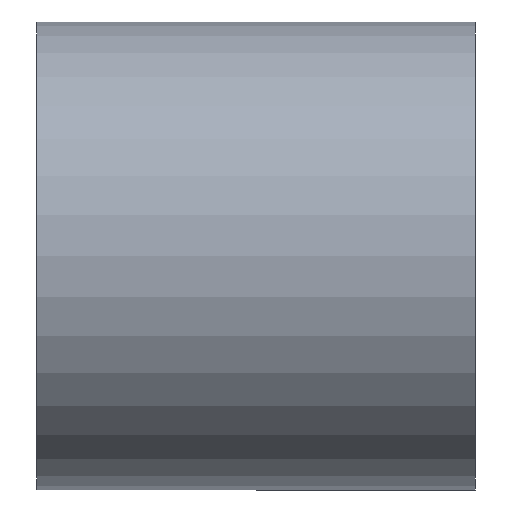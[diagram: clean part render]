
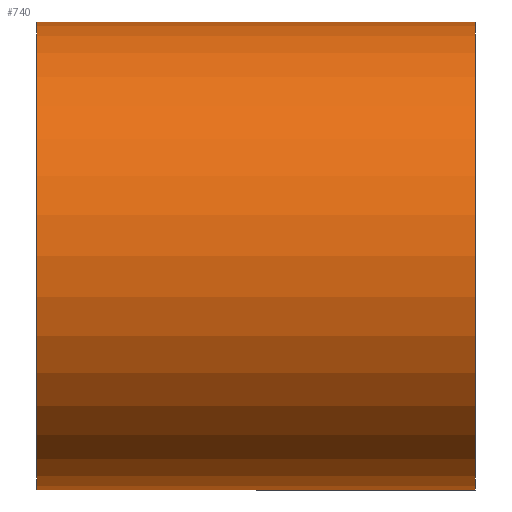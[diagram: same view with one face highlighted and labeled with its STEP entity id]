
A CAD part, front view. The second image highlights one B-rep face of the part: STEP entity #740.
In plain terms, the highlighted cylindrical face has radius 8 mm (diameter 16 mm), a partial arc.
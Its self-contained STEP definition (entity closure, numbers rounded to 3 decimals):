
#20 = VERTEX_POINT ( 'NONE', #384 ) ;
#53 = DIRECTION ( 'NONE',  ( -1., 0., 0. ) ) ;
#103 = VERTEX_POINT ( 'NONE', #879 ) ;
#150 = VECTOR ( 'NONE', #598, 1000. ) ;
#164 = EDGE_CURVE ( 'NONE', #20, #451, #617, .T. ) ;
#223 = EDGE_CURVE ( 'NONE', #103, #451, #361, .T. ) ;
#231 = AXIS2_PLACEMENT_3D ( 'NONE', #481, #707, #363 ) ;
#241 = CARTESIAN_POINT ( 'NONE',  ( 7.5, 0., -8. ) ) ;
#283 = CARTESIAN_POINT ( 'NONE',  ( 0., 0., 8. ) ) ;
#328 = DIRECTION ( 'NONE',  ( 0., 0., 1. ) ) ;
#361 = CIRCLE ( 'NONE', #637, 8. ) ;
#363 = DIRECTION ( 'NONE',  ( 0., 0., 1. ) ) ;
#384 = CARTESIAN_POINT ( 'NONE',  ( 7.5, 0., 8. ) ) ;
#397 = ORIENTED_EDGE ( 'NONE', *, *, #755, .T. ) ;
#436 = ORIENTED_EDGE ( 'NONE', *, *, #544, .F. ) ;
#451 = VERTEX_POINT ( 'NONE', #711 ) ;
#481 = CARTESIAN_POINT ( 'NONE',  ( 7.5, 0., 0. ) ) ;
#515 = AXIS2_PLACEMENT_3D ( 'NONE', #537, #808, #799 ) ;
#537 = CARTESIAN_POINT ( 'NONE',  ( 0., 0., 0. ) ) ;
#544 = EDGE_CURVE ( 'NONE', #859, #103, #600, .T. ) ;
#563 = ORIENTED_EDGE ( 'NONE', *, *, #164, .T. ) ;
#590 = CIRCLE ( 'NONE', #231, 8. ) ;
#598 = DIRECTION ( 'NONE',  ( -1., 0., 0. ) ) ;
#600 = LINE ( 'NONE', #730, #150 ) ;
#606 = VECTOR ( 'NONE', #884, 1000. ) ;
#610 = CYLINDRICAL_SURFACE ( 'NONE', #515, 8. ) ;
#617 = LINE ( 'NONE', #283, #606 ) ;
#637 = AXIS2_PLACEMENT_3D ( 'NONE', #672, #53, #328 ) ;
#672 = CARTESIAN_POINT ( 'NONE',  ( -7.5, 0., 0. ) ) ;
#707 = DIRECTION ( 'NONE',  ( -1., 0., 0. ) ) ;
#708 = EDGE_LOOP ( 'NONE', ( #436, #397, #563, #828 ) ) ;
#711 = CARTESIAN_POINT ( 'NONE',  ( -7.5, 0., 8. ) ) ;
#730 = CARTESIAN_POINT ( 'NONE',  ( 0., 0., -8. ) ) ;
#740 = ADVANCED_FACE ( 'NONE', ( #803 ), #610, .T. ) ;
#755 = EDGE_CURVE ( 'NONE', #859, #20, #590, .T. ) ;
#799 = DIRECTION ( 'NONE',  ( 0., 0., 1. ) ) ;
#803 = FACE_OUTER_BOUND ( 'NONE', #708, .T. ) ;
#808 = DIRECTION ( 'NONE',  ( -1., 0., 0. ) ) ;
#828 = ORIENTED_EDGE ( 'NONE', *, *, #223, .F. ) ;
#859 = VERTEX_POINT ( 'NONE', #241 ) ;
#879 = CARTESIAN_POINT ( 'NONE',  ( -7.5, 0., -8. ) ) ;
#884 = DIRECTION ( 'NONE',  ( -1., 0., 0. ) ) ;
